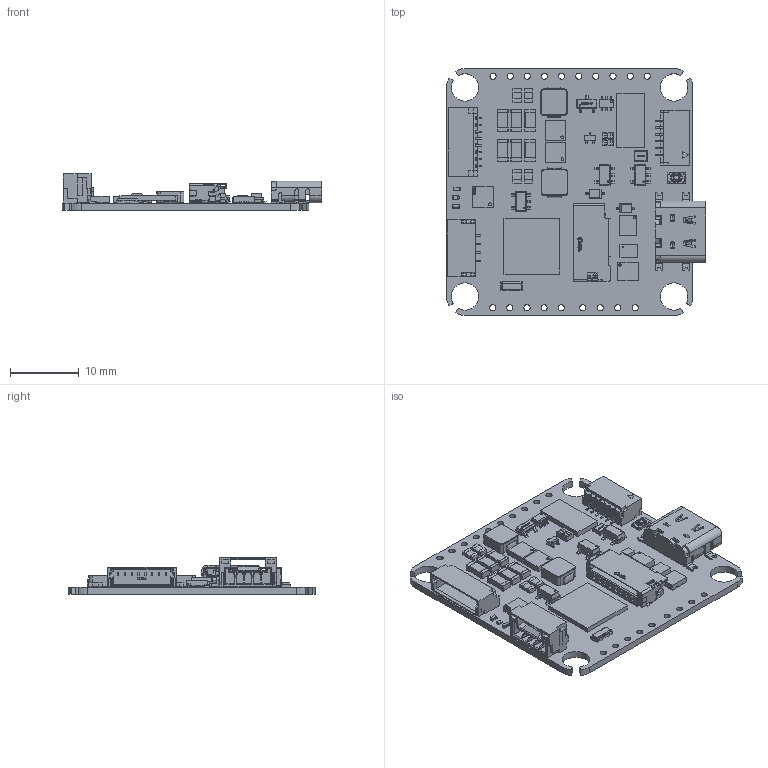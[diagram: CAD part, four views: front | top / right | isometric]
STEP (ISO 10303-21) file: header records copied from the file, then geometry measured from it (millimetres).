
FILE_DESCRIPTION (( 'STEP AP214' ), '1' );
FILE_NAME ('LUCID H7 FC.STEP', '2024-12-23T03:20:32', ( '' ), ( '' ), 'SwSTEP 2.0', 'SolidWorks 2023', '' );
FILE_SCHEMA (( 'AUTOMOTIVE_DESIGN' ));
Length unit declared in the file: millimetre
Products named in the file (1): LUCID H7 FC
Bounding box: 37.86 x 36 x 5.3 mm (x, y, z)
Volume: 1879.1 mm3; surface area: 5563.5 mm2
Topology: 57 solids, 57 shells, 5039 faces, 13399 edges, 8527 vertices
Faces by surface type: plane 3385, cylinder 1070, bspline 366, sphere 156, torus 34, cone 28
Entity records: 218528 total; most frequent: CARTESIAN_POINT 40070, ORIENTED_EDGE 26482, DIRECTION 23561, EDGE_CURVE 13241, LINE 10135, VECTOR 10135, VERTEX_POINT 8521, AXIS2_PLACEMENT_3D 6713
